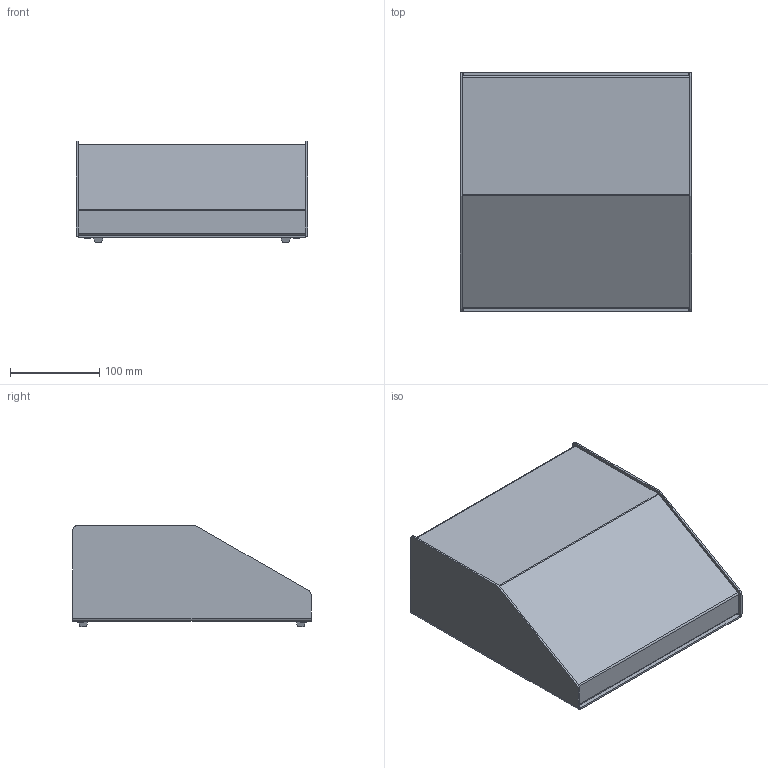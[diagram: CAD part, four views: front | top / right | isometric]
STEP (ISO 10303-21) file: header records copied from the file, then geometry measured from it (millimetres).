
FILE_DESCRIPTION(/* description */ ('','CAx-IF Rec.Pracs.---Representation and Presentation of Product Manufacturing Information (PMI)---4.0---2014-10-13'),/* implementation_level */ '2;1');
FILE_NAME(/* name */ 'E:\Eng\Customer Service\Drawings\working on 1456\STP\1456KK4\1456KK4.iam.stp',/* time_stamp */ '2018-07-20T11:36:14-04:00',/* author */ ('fwarzocha'),/* organization */ (''),/* preprocessor_version */ 'ST-DEVELOPER v17',/* originating_system */ 'Autodesk Inventor 2018',/* authorisation */ '');
FILE_SCHEMA (('AP242_MANAGED_MODEL_BASED_3D_ENGINEERING_MIM_LF { 1 0 10303 442 1 1 4 }'));
Products named in the file (5): 1456KK4; 1; 2; #10350; 3M SJ-5018 RUBBER FOOT (PFR1421T3)
Assembly tree (6 placements, depth 2):
  1456KK4
    1
    2
    3M SJ-5018 RUBBER FOOT (PFR1421T3)  x4
  #10350
Bounding box: 258.62 x 266.29 x 112.93 mm (x, y, z)
Volume: 409328.3 mm3; surface area: 452786.4 mm2
Topology: 10 solids, 10 shells, 406 faces, 1170 edges, 796 vertices
Faces by surface type: plane 340, cylinder 38, cone 20, sphere 4, torus 4
Full cylindrical faces by diameter (mm): 2.794 x8, 3.378 x4, 4.343 x4, 4.801 x4
Entity records: 10330 total; most frequent: CARTESIAN_POINT 1800, ORIENTED_EDGE 1758, DIRECTION 1620, EDGE_CURVE 879, LINE 736, VECTOR 736, VERTEX_POINT 598, AXIS2_PLACEMENT_3D 442
